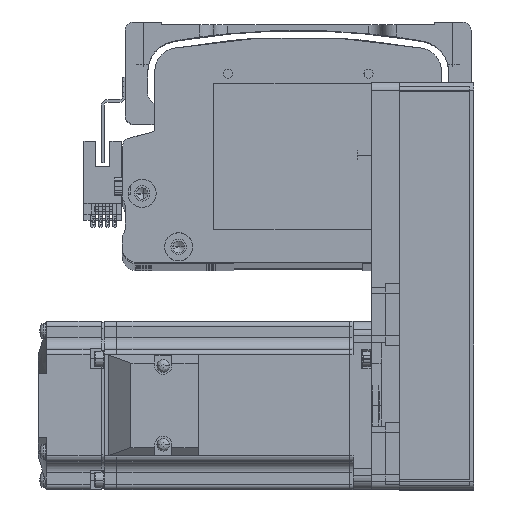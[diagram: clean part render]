
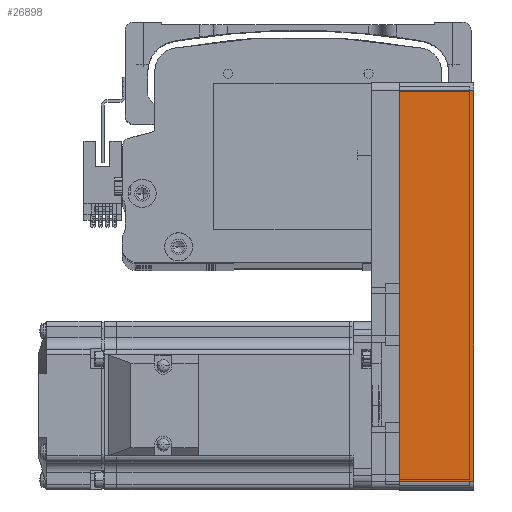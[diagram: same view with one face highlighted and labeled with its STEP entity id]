
A CAD part, top view. The second image highlights one B-rep face of the part: STEP entity #26898.
In plain terms, the highlighted planar face has unit normal (0, 0, 1) as drawn and (0, -1, 0) by its records, which use the part's own axes.
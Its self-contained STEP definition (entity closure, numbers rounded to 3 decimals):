
#246 = CARTESIAN_POINT ( 'NONE',  ( 69.5, -30., 26.5 ) ) ;
#1933 = EDGE_CURVE ( 'NONE', #45387, #6554, #23253, .T. ) ;
#4703 = VECTOR ( 'NONE', #8958, 1000. ) ;
#6554 = VERTEX_POINT ( 'NONE', #84366 ) ;
#6886 = DIRECTION ( 'NONE',  ( 0., 0., 1. ) ) ;
#8883 = LINE ( 'NONE', #24320, #38242 ) ;
#8958 = DIRECTION ( 'NONE',  ( 1., 0., 0. ) ) ;
#12569 = CARTESIAN_POINT ( 'NONE',  ( -69.5, -30., 26.5 ) ) ;
#13514 = CARTESIAN_POINT ( 'NONE',  ( 72.5, -30., 26.5 ) ) ;
#16939 = VECTOR ( 'NONE', #48231, 1000. ) ;
#19805 = EDGE_CURVE ( 'NONE', #78591, #74305, #57351, .T. ) ;
#20249 = DIRECTION ( 'NONE',  ( -1., 0., 0. ) ) ;
#23253 = LINE ( 'NONE', #41501, #16939 ) ;
#24320 = CARTESIAN_POINT ( 'NONE',  ( 72.5, -30., 0. ) ) ;
#24607 = LINE ( 'NONE', #55853, #4703 ) ;
#24818 = ORIENTED_EDGE ( 'NONE', *, *, #1933, .T. ) ;
#26898 = ADVANCED_FACE ( 'NONE', ( #66350 ), #46621, .F. ) ;
#38242 = VECTOR ( 'NONE', #51269, 1000. ) ;
#41501 = CARTESIAN_POINT ( 'NONE',  ( -69.5, -30., 26.5 ) ) ;
#44000 = CARTESIAN_POINT ( 'NONE',  ( 69.5, -30., 0. ) ) ;
#45387 = VERTEX_POINT ( 'NONE', #12569 ) ;
#45717 = ORIENTED_EDGE ( 'NONE', *, *, #75192, .T. ) ;
#46621 = PLANE ( 'NONE',  #85373 ) ;
#48231 = DIRECTION ( 'NONE',  ( 0., 0., -1. ) ) ;
#51269 = DIRECTION ( 'NONE',  ( 1., 0., 0. ) ) ;
#52784 = ORIENTED_EDGE ( 'NONE', *, *, #57169, .F. ) ;
#53160 = VECTOR ( 'NONE', #6886, 1000. ) ;
#55853 = CARTESIAN_POINT ( 'NONE',  ( 72.5, -30., 26.5 ) ) ;
#57169 = EDGE_CURVE ( 'NONE', #45387, #74305, #24607, .T. ) ;
#57351 = LINE ( 'NONE', #246, #53160 ) ;
#59379 = EDGE_LOOP ( 'NONE', ( #45717, #79706, #52784, #24818 ) ) ;
#60365 = DIRECTION ( 'NONE',  ( 0., 1., 0. ) ) ;
#66064 = CARTESIAN_POINT ( 'NONE',  ( 69.5, -30., 26.5 ) ) ;
#66350 = FACE_OUTER_BOUND ( 'NONE', #59379, .T. ) ;
#74305 = VERTEX_POINT ( 'NONE', #66064 ) ;
#75192 = EDGE_CURVE ( 'NONE', #6554, #78591, #8883, .T. ) ;
#78591 = VERTEX_POINT ( 'NONE', #44000 ) ;
#79706 = ORIENTED_EDGE ( 'NONE', *, *, #19805, .T. ) ;
#84366 = CARTESIAN_POINT ( 'NONE',  ( -69.5, -30., 0. ) ) ;
#85373 = AXIS2_PLACEMENT_3D ( 'NONE', #13514, #60365, #20249 ) ;
